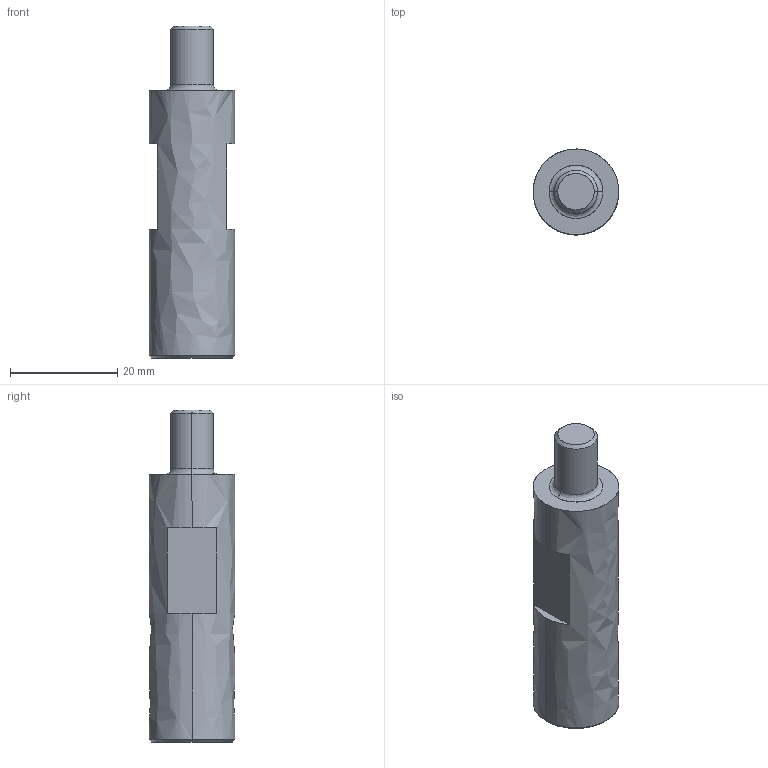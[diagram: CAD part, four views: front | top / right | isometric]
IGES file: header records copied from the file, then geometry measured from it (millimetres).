
Global section: file name: E:\UnigraphicsGraphicData\MISUMI_PRESS-PARTS\IGES\3d_mcup16-50_01354_r00.igs; native system: NX V5.0; preprocessor: UGS NX IGES V5.0; author: MISUMI; date: 20110105.161309; units: millimetre
Bounding box: 16 x 16 x 62 mm (x, y, z)
Surface area: 3201.5 mm2 (no closed solid volume)
Topology: 0 solids, 0 shells, 19 faces, 108 edges, 108 vertices
Faces by surface type: bspline 19
